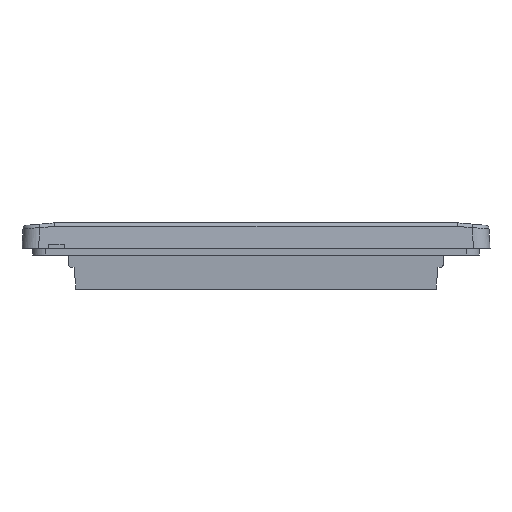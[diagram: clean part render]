
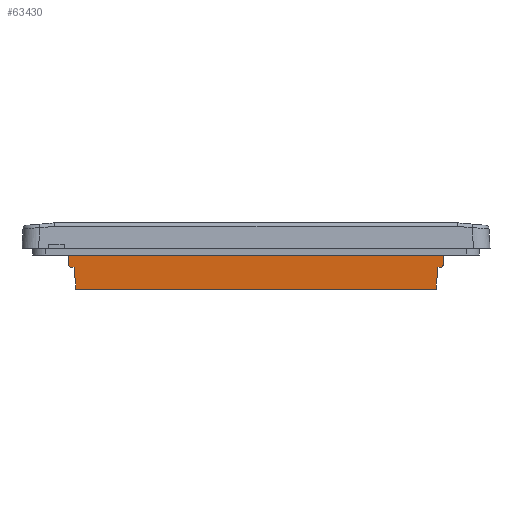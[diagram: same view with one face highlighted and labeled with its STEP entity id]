
A CAD part, front view. The second image highlights one B-rep face of the part: STEP entity #63430.
In plain terms, the highlighted free-form (B-spline) face has degree [1, 1] with [2, 2] control points.
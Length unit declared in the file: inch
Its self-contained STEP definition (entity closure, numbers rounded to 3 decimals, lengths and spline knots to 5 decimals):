
#62095=CARTESIAN_POINT('V985',(0.0389,-12.90102,
   0.46686));
#62096=VERTEX_POINT('V985',#62095);
#62102=CARTESIAN_POINT('V141',(0.05479,-12.91695,
   0.77));
#62103=VERTEX_POINT('V141',#62102);
#62104=CARTESIAN_POINT('E1021',(0.0389,
   -12.90106,0.46686));
#62105=CARTESIAN_POINT('E1021',(0.05479,
   -12.91695,0.77));
#62106=B_SPLINE_CURVE_WITH_KNOTS('E1021',1,(#62104,#62105),
   .POLYLINE_FORM.,.F.,.U.,(2,2),(0.35849,
   0.59068),.UNSPECIFIED.);
#62107=EDGE_CURVE('E1021',#62096,#62103,#62106,.T.);
#62205=CARTESIAN_POINT('V1011',(-6.99933,
   -12.89808,0.41));
#62206=VERTEX_POINT('V1011',#62205);
#62212=CARTESIAN_POINT('V1023',(-6.95613,
   -12.89808,0.41));
#62213=VERTEX_POINT('V1023',#62212);
#62214=CARTESIAN_POINT('E1073',(-6.99933,
   -12.89808,0.41));
#62215=CARTESIAN_POINT('E1073',(-6.95613,
   -12.89808,0.41));
#62216=B_SPLINE_CURVE_WITH_KNOTS('E1073',1,(#62214,#62215),
   .POLYLINE_FORM.,.F.,.U.,(2,2),(0.0,0.4314),
   .UNSPECIFIED.);
#62217=EDGE_CURVE('E1073',#62206,#62213,#62216,.T.);
#62233=CARTESIAN_POINT('V1024',(-6.92026,
   -12.8766,0.));
#62234=VERTEX_POINT('V1024',#62233);
#62235=CARTESIAN_POINT('E1069',(-6.95613,
   -12.89808,0.41));
#62236=CARTESIAN_POINT('E1069',(-6.92026,
   -12.8766,0.));
#62237=QUASI_UNIFORM_CURVE('E1069',1,(#62235,#62236),.POLYLINE_FORM.,
   .F.,.U.);
#62238=EDGE_CURVE('E1069',#62213,#62234,#62237,.T.);
#62255=CARTESIAN_POINT('V998',(-0.10008,
   -12.8766,0.));
#62256=VERTEX_POINT('V998',#62255);
#62264=CARTESIAN_POINT('E2059',(-0.10008,
   -12.8766,0.0));
#62265=CARTESIAN_POINT('E2059',(-6.92026,
   -12.8766,0.0));
#62266=QUASI_UNIFORM_CURVE('E2059',1,(#62264,#62265),.POLYLINE_FORM.,
   .F.,.U.);
#62267=EDGE_CURVE('E2059',#62256,#62234,#62266,.T.);
#63323=CARTESIAN_POINT('V997',(-0.06421,
   -12.89808,0.41));
#63324=VERTEX_POINT('V997',#63323);
#63325=CARTESIAN_POINT('E1029',(-0.06421,
   -12.89808,0.41));
#63326=CARTESIAN_POINT('E1029',(-0.10008,
   -12.8766,0.));
#63327=QUASI_UNIFORM_CURVE('E1029',1,(#63325,#63326),.POLYLINE_FORM.,
   .F.,.U.);
#63328=EDGE_CURVE('E1029',#63324,#62256,#63327,.T.);
#63345=CARTESIAN_POINT('V986',(-0.02101,
   -12.89808,0.41));
#63346=VERTEX_POINT('V986',#63345);
#63354=CARTESIAN_POINT('E1033',(-0.02101,
   -12.89808,0.41));
#63355=CARTESIAN_POINT('E1033',(-0.06421,
   -12.89808,0.41));
#63356=B_SPLINE_CURVE_WITH_KNOTS('E1033',1,(#63354,#63355),
   .POLYLINE_FORM.,.F.,.U.,(2,2),(0.0,0.4314),
   .UNSPECIFIED.);
#63357=EDGE_CURVE('E1033',#63346,#63324,#63356,.T.);
#63380=CARTESIAN_POINT('E1013',(0.03888,
   -12.90104,0.46686));
#63381=CARTESIAN_POINT('E1013',(0.03838,
   -12.89997,0.44749));
#63382=CARTESIAN_POINT('E1013',(0.0202,
   -12.89886,0.41877));
#63383=CARTESIAN_POINT('E1013',(-0.00939,
   -12.89808,0.41));
#63384=CARTESIAN_POINT('E1013',(-0.02101,
   -12.89808,0.41));
#63385=B_SPLINE_CURVE_WITH_KNOTS('E1013',3,(#63380,#63381,#63382,
   #63383,#63384),.UNSPECIFIED.,.F.,.U.,(4,1,4),(0.0,
   0.00146,0.00231),.UNSPECIFIED.);
#63386=EDGE_CURVE('E1013',#62096,#63346,#63385,.T.);
#63394=CARTESIAN_POINT('F545',(-7.08431,
   -12.92246,0.87511));
#63395=CARTESIAN_POINT('F545',(0.06397,-12.92246,
   0.87511));
#63396=CARTESIAN_POINT('F545',(-7.08431,
   -12.87639,-0.00393));
#63397=CARTESIAN_POINT('F545',(0.06397,-12.87639,
   -0.00393));
#63398=B_SPLINE_SURFACE_WITH_KNOTS('F545',1,1,((#63394,#63396),(
   #63395,#63397)),.PLANE_SURF.,.F.,.F.,.U.,(2,2),(2,2),(0.0,
   8.12074),(0.0,1.0),.UNSPECIFIED.);
#63399=ORIENTED_EDGE('E1013',*,*,#63386,.T.);
#63400=ORIENTED_EDGE('F48',*,*,#63357,.T.);
#63401=ORIENTED_EDGE('E1029',*,*,#63328,.T.);
#63402=ORIENTED_EDGE('F1032',*,*,#62267,.T.);
#63403=ORIENTED_EDGE('E1069',*,*,#62238,.F.);
#63404=ORIENTED_EDGE('E1073',*,*,#62217,.F.);
#63405=CARTESIAN_POINT('V1012',(-7.05924,
   -12.90102,0.46686));
#63406=VERTEX_POINT('V1012',#63405);
#63407=CARTESIAN_POINT('E1053',(-6.99933,
   -12.89808,0.41));
#63408=CARTESIAN_POINT('E1053',(-7.01095,
   -12.89808,0.41));
#63409=CARTESIAN_POINT('E1053',(-7.04054,
   -12.89886,0.41877));
#63410=CARTESIAN_POINT('E1053',(-7.05872,
   -12.89997,0.44749));
#63411=CARTESIAN_POINT('E1053',(-7.05922,
   -12.90104,0.46686));
#63412=B_SPLINE_CURVE_WITH_KNOTS('E1053',3,(#63407,#63408,#63409,
   #63410,#63411),.UNSPECIFIED.,.F.,.U.,(4,1,4),(0.0,
   0.00085,0.00231),.UNSPECIFIED.);
#63413=EDGE_CURVE('E1053',#62206,#63406,#63412,.T.);
#63414=ORIENTED_EDGE('E1053',*,*,#63413,.T.);
#63415=CARTESIAN_POINT('V139',(-7.07513,
   -12.91695,0.77));
#63416=VERTEX_POINT('V139',#63415);
#63417=CARTESIAN_POINT('E1061',(-7.05924,
   -12.90106,0.46686));
#63418=CARTESIAN_POINT('E1061',(-7.07513,
   -12.91695,0.77));
#63419=B_SPLINE_CURVE_WITH_KNOTS('E1061',1,(#63417,#63418),
   .POLYLINE_FORM.,.F.,.U.,(2,2),(0.35849,
   0.59068),.UNSPECIFIED.);
#63420=EDGE_CURVE('E1061',#63406,#63416,#63419,.T.);
#63421=ORIENTED_EDGE('E1061',*,*,#63420,.T.);
#63422=CARTESIAN_POINT('E168',(-7.07513,
   -12.91695,0.77));
#63423=CARTESIAN_POINT('E168',(0.05479,-12.91695,
   0.77));
#63424=QUASI_UNIFORM_CURVE('E168',1,(#63422,#63423),.POLYLINE_FORM.,
   .F.,.U.);
#63425=EDGE_CURVE('E168',#63416,#62103,#63424,.T.);
#63426=ORIENTED_EDGE('E168',*,*,#63425,.T.);
#63427=ORIENTED_EDGE('E1021',*,*,#62107,.F.);
#63428=EDGE_LOOP('F545',(#63399,#63400,#63401,#63402,#63403,#63404,
   #63414,#63421,#63426,#63427));
#63429=FACE_OUTER_BOUND('F545',#63428,.F.);
#63430=ADVANCED_FACE('F545',(#63429),#63398,.F.);
